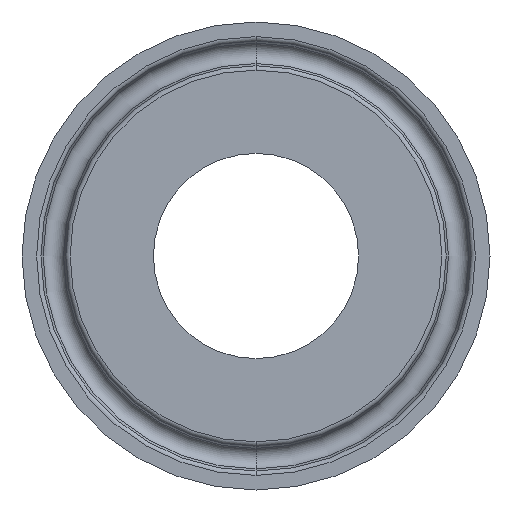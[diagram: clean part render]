
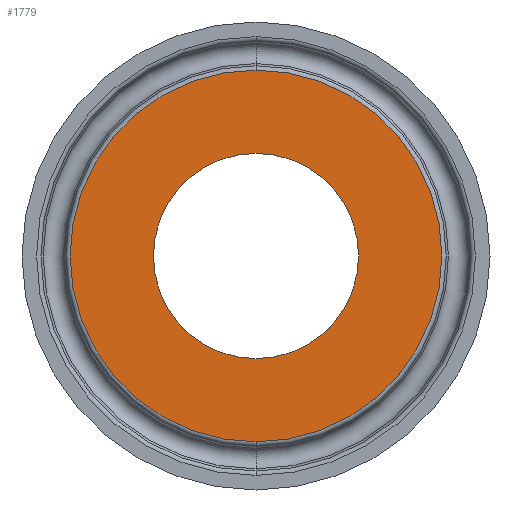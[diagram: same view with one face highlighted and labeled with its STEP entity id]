
A CAD part, front view. The second image highlights one B-rep face of the part: STEP entity #1779.
In plain terms, the highlighted planar face has unit normal (0, -1, 0).
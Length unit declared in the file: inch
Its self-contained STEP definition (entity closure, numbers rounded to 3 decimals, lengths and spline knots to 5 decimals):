
#141 = AXIS2_PLACEMENT_3D ( 'NONE', #1726, #1167, #839 ) ;
#204 = CARTESIAN_POINT ( 'NONE',  ( 0., 0., 0. ) ) ;
#229 = DIRECTION ( 'NONE',  ( 0., -1., 0. ) ) ;
#271 = DIRECTION ( 'NONE',  ( 0., 0., -1. ) ) ;
#311 = AXIS2_PLACEMENT_3D ( 'NONE', #204, #1427, #752 ) ;
#346 = PLANE ( 'NONE',  #688 ) ;
#459 = DIRECTION ( 'NONE',  ( 0., 0., 1. ) ) ;
#475 = DIRECTION ( 'NONE',  ( 0., 1., 0. ) ) ;
#496 = CARTESIAN_POINT ( 'NONE',  ( 0., 0., 0. ) ) ;
#517 = VERTEX_POINT ( 'NONE', #1612 ) ;
#523 = DIRECTION ( 'NONE',  ( 0., 0., -1. ) ) ;
#607 = FACE_OUTER_BOUND ( 'NONE', #1370, .T. ) ;
#613 = EDGE_CURVE ( 'NONE', #1620, #671, #630, .T. ) ;
#627 = CIRCLE ( 'NONE', #846, 0.78791 ) ;
#630 = CIRCLE ( 'NONE', #1646, 0.435 ) ;
#671 = VERTEX_POINT ( 'NONE', #1512 ) ;
#688 = AXIS2_PLACEMENT_3D ( 'NONE', #1277, #475, #459 ) ;
#752 = DIRECTION ( 'NONE',  ( 0., 0., -1. ) ) ;
#839 = DIRECTION ( 'NONE',  ( 0., 0., -1. ) ) ;
#846 = AXIS2_PLACEMENT_3D ( 'NONE', #496, #229, #523 ) ;
#865 = EDGE_CURVE ( 'NONE', #985, #517, #905, .T. ) ;
#905 = CIRCLE ( 'NONE', #141, 0.78791 ) ;
#911 = EDGE_LOOP ( 'NONE', ( #1509, #1642 ) ) ;
#982 = ORIENTED_EDGE ( 'NONE', *, *, #865, .T. ) ;
#985 = VERTEX_POINT ( 'NONE', #988 ) ;
#987 = FACE_BOUND ( 'NONE', #911, .T. ) ;
#988 = CARTESIAN_POINT ( 'NONE',  ( 0., 0., 0.78791 ) ) ;
#1167 = DIRECTION ( 'NONE',  ( 0., -1., 0. ) ) ;
#1252 = CARTESIAN_POINT ( 'NONE',  ( 0., 0., 0. ) ) ;
#1271 = CARTESIAN_POINT ( 'NONE',  ( 0., 0., 0.435 ) ) ;
#1277 = CARTESIAN_POINT ( 'NONE',  ( -0.78791, 0., 0. ) ) ;
#1370 = EDGE_LOOP ( 'NONE', ( #1501, #982 ) ) ;
#1383 = DIRECTION ( 'NONE',  ( 0., -1., 0. ) ) ;
#1427 = DIRECTION ( 'NONE',  ( 0., -1., 0. ) ) ;
#1501 = ORIENTED_EDGE ( 'NONE', *, *, #1516, .T. ) ;
#1502 = CIRCLE ( 'NONE', #311, 0.435 ) ;
#1509 = ORIENTED_EDGE ( 'NONE', *, *, #1787, .F. ) ;
#1512 = CARTESIAN_POINT ( 'NONE',  ( 0., 0., -0.435 ) ) ;
#1516 = EDGE_CURVE ( 'NONE', #517, #985, #627, .T. ) ;
#1612 = CARTESIAN_POINT ( 'NONE',  ( 0., 0., -0.78791 ) ) ;
#1620 = VERTEX_POINT ( 'NONE', #1271 ) ;
#1642 = ORIENTED_EDGE ( 'NONE', *, *, #613, .F. ) ;
#1646 = AXIS2_PLACEMENT_3D ( 'NONE', #1252, #1383, #271 ) ;
#1726 = CARTESIAN_POINT ( 'NONE',  ( 0., 0., 0. ) ) ;
#1779 = ADVANCED_FACE ( 'NONE', ( #987, #607 ), #346, .F. ) ;
#1787 = EDGE_CURVE ( 'NONE', #671, #1620, #1502, .T. ) ;
